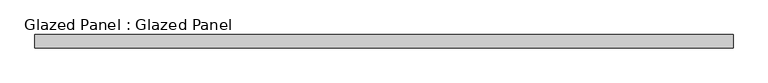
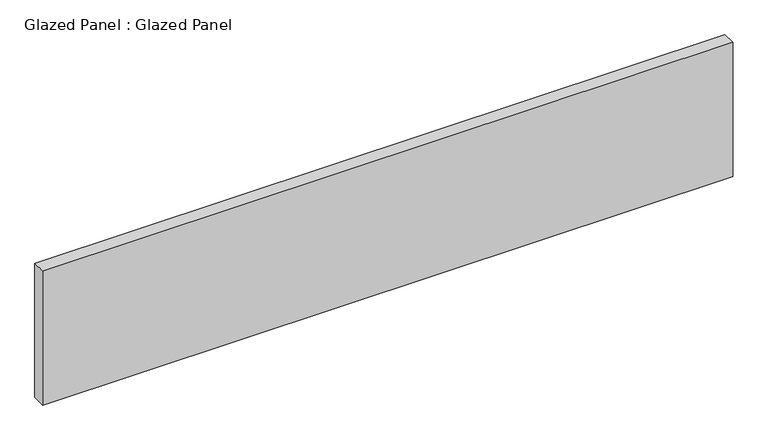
"""IFC4 building model written with IfcOpenShell, lengths in millimetres: plate geometry, Glazed Panel : Glazed Panel."""

from ifc_helpers import new_model, si_unit, origin, origin_with_axes, place, context, project, spatial, polyline, outline, extrude, source, transform, mapped, element, save


def glazed_panel_glazed_panel_587f74e9(model_context):
    return source(origin(), model_context, "Body", "SweptSolid", [
        extrude(outline(polyline([(663.575, 38.1), (-663.575, 38.1), (-663.575, 63.5), (663.575, 63.5), (663.575, 38.1)])), origin_with_axes(), (0.0, 0.0, 1.0), 273.05),
    ])


if __name__ == "__main__":
    model = new_model("IFC4")
    model_context = context("Model", 3, world=origin())
    ifc_project = project(units=[si_unit("LENGTHUNIT", "METRE", prefix="MILLI")], contexts=[model_context])
    site = spatial("IfcSite", under=ifc_project)
    building = spatial("IfcBuilding", under=site)
    placement = place(None, origin())
    glazed_panel_glazed_panel_shape = glazed_panel_glazed_panel_587f74e9(model_context)
    element("IfcPlate", 1, ObjectType="Glazed Panel : Glazed Panel", at=placement, inside=building, context=model_context, shape_type="MappedRepresentation", body=[
        mapped(glazed_panel_glazed_panel_shape, transform((0.0, 0.0, 0.0), x_axis=(1.0, 0.0, 0.0), y_axis=(0.0, 1.0, 0.0), z_axis=(0.0, 0.0, 1.0))),
    ])
    save(model, "model.ifc")
